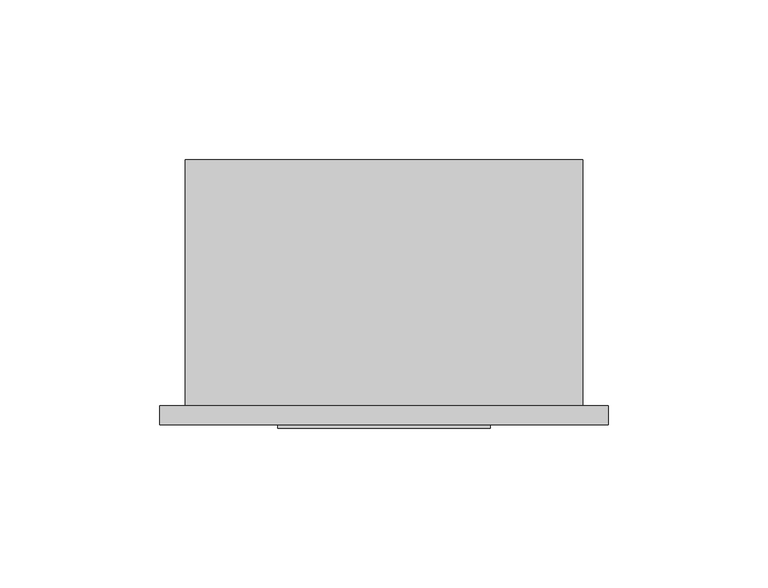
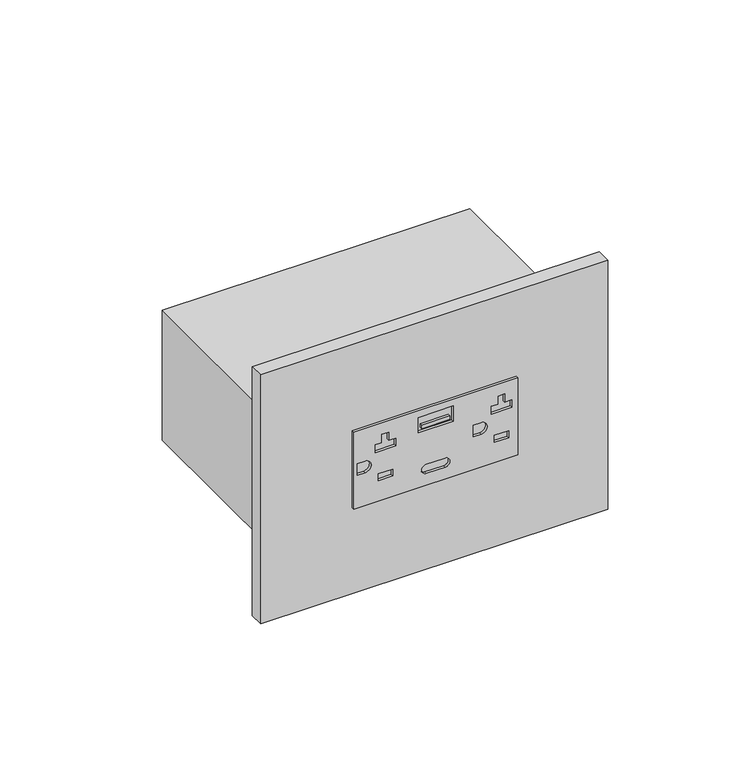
"""IFC4 building model written with IfcOpenShell, lengths in millimetres: proxy geometry, Electrical-Teknion-EPDHS_Horizontal_Power_Data_Single-R2019 : PD Horizontal Module - Single 20 Amp USB (A+C)."""

from ifc_helpers import new_model, si_unit, point, frame, frame_2d, origin, place, context, project, spatial, polyline, circle_curve, trimmed, segment, composite_curve, outline, extrude, source, transform, mapped, element, save


def electrical_fixtures_6ca6a594(model_context):
    return source(origin(), model_context, "Body", "SweptSolid", [
        extrude(outline(polyline([(854.6973, 95.5294), (854.6973, 28.9814), (821.7027, 28.9814), (821.7027, 95.5294), (854.6973, 95.5294)]), holes=[polyline([(851.7734934, 69.3039), (845.2724383, 69.3039), (845.2724383, 55.2069), (851.7734934, 55.2069), (851.7734934, 69.3039)]), composite_curve([segment(trimmed(circle_curve(frame_2d((828.6623, 66.04)), 1.905), [point((830.5673, 66.04))], [point((826.7573, 66.04))], True, "CARTESIAN"), True, "CONTINUOUS"), segment(polyline([(826.7573, 66.04), (826.7573, 58.4708)]), True, "CONTINUOUS"), segment(trimmed(circle_curve(frame_2d((828.6623, 58.4708)), 1.905), [point((826.7573, 58.4708))], [point((830.5673, 58.4708))], True, "CARTESIAN"), True, "CONTINUOUS"), segment(polyline([(830.5673, 58.4708), (830.5673, 66.04)]), True, "CONTINUOUS")], self_intersect=False), composite_curve([segment(polyline([(835.7362, 30.5054), (840.6638, 30.5054), (840.6638, 33.6042)]), True, "CONTINUOUS"), segment(trimmed(circle_curve(frame_2d((838.2, 33.6042)), 2.4638), [point((840.6638, 33.6042))], [point((835.7362, 33.6042))], True, "CARTESIAN"), True, "CONTINUOUS"), segment(polyline([(835.7362, 33.6042), (835.7362, 30.5054)]), True, "CONTINUOUS")], self_intersect=False), polyline([(842.8355, 46.0756), (842.8355, 37.7765661), (846.1629, 37.7765661), (846.1629, 40.4597639), (849.6935, 40.4597639), (849.6935, 43.1973812), (846.1629, 43.1973812), (846.1629, 46.0756), (842.8355, 46.0756)]), composite_curve([segment(polyline([(840.6638, 77.4954), (840.6638, 80.5942)]), True, "CONTINUOUS"), segment(trimmed(circle_curve(frame_2d((838.2, 80.5942)), 2.4638), [point((840.6638, 80.5942))], [point((835.7362, 80.5942))], True, "CARTESIAN"), True, "CONTINUOUS"), segment(polyline([(835.7362, 80.5942), (835.7362, 77.4954), (840.6638, 77.4954)]), True, "CONTINUOUS")], self_intersect=False), polyline([(833.3613, 86.0128649), (833.3613, 91.8360175), (830.38696, 91.8360175), (830.38696, 86.0128649), (833.3613, 86.0128649)]), polyline([(833.3613, 39.0228649), (833.3613, 44.8460175), (830.38696, 44.8460175), (830.38696, 39.0228649), (833.3613, 39.0228649)]), polyline([(842.8355, 93.0656), (842.8355, 84.7665661), (846.1629, 84.7665661), (846.1629, 87.4497639), (849.6935, 87.4497639), (849.6935, 90.1873812), (846.1629, 90.1873812), (846.1629, 93.0656), (842.8355, 93.0656)])]), frame((0.0, -6.9294746, 0.0), z_axis=(0.0, 1.0, 0.0), x_axis=(0.0, 0.0, 1.0)), (0.0, 0.0, 1.0), 1.0366746),
        extrude(outline(polyline([(67.9731897, -6.9294746), (56.5295546, -6.9294746), (56.5295546, -5.8928), (67.9731897, -5.8928), (67.9731897, -6.9294746)])), frame((0.0, 0.0, 846.482265), z_axis=(0.0, 0.0, 1.0), x_axis=(1.0, 0.0, 0.0)), (0.0, 0.0, 1.0), 1.5209293),
        extrude(outline(polyline([(-7.9502, 0.0), (132.4102, 0.0), (132.4102, -5.8928), (-7.9502, -5.8928), (-7.9502, 0.0)])), frame((0.0, 0.0, 784.9108), z_axis=(0.0, 0.0, 1.0), x_axis=(1.0, 0.0, 0.0)), (0.0, 0.0, 1.0), 106.5784),
        extrude(outline(polyline([(124.46, 0.0), (0.0, 0.0), (0.0, 77.054), (124.46, 77.054), (124.46, 0.0)])), frame((0.0, 0.0, 810.4124), z_axis=(0.0, 0.0, 1.0), x_axis=(1.0, 0.0, 0.0)), (0.0, 0.0, 1.0), 55.5752),
    ])


if __name__ == "__main__":
    model = new_model("IFC4")
    model_context = context("Model", 3, world=origin())
    ifc_project = project(units=[si_unit("LENGTHUNIT", "METRE", prefix="MILLI")], contexts=[model_context])
    site = spatial("IfcSite", under=ifc_project)
    building = spatial("IfcBuilding", under=site)
    placement = place(None, origin())
    electrical_fixtures_shape = electrical_fixtures_6ca6a594(model_context)
    element("IfcBuildingElementProxy", 1, Name="Electrical-Teknion-EPDHS_Horizontal_Power_Data_Single-R2019 : PD Horizontal Module - Single 20 Amp USB (A+C)", ObjectType="Electrical-Teknion-EPDHS_Horizontal_Power_Data_Single-R2019 : PD Horizontal Module - Single 20 Amp USB (A+C)", at=placement, inside=building, context=model_context, shape_type="MappedRepresentation", body=[
        mapped(electrical_fixtures_shape, transform((0.0, 0.0, 0.0), x_axis=(1.0, 0.0, 0.0), y_axis=(0.0, 1.0, 0.0), z_axis=(0.0, 0.0, 1.0))),
    ])
    save(model, "model.ifc")
